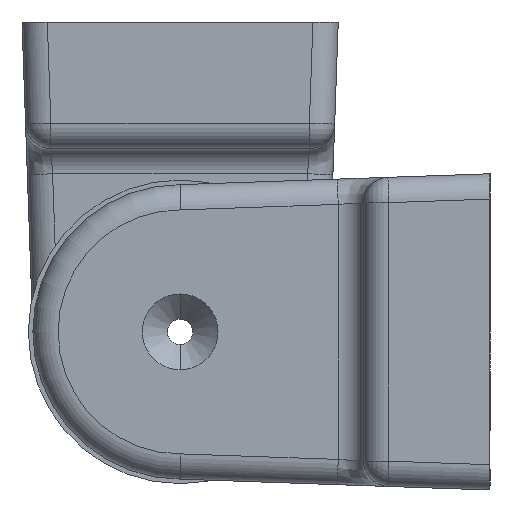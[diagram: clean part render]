
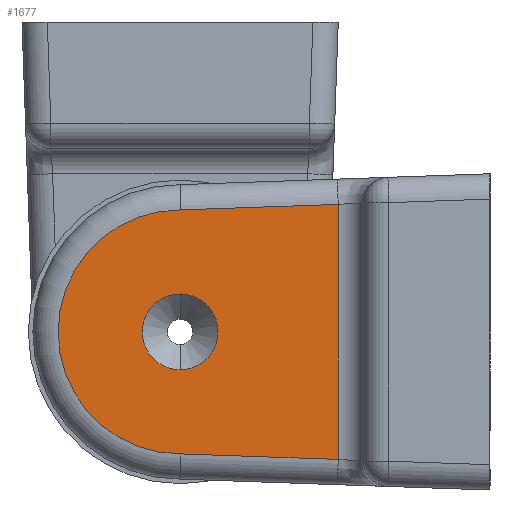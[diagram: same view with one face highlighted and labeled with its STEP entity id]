
A CAD part, left-side view. The second image highlights one B-rep face of the part: STEP entity #1677.
In plain terms, the highlighted planar face has unit normal (-1, 0, 0).
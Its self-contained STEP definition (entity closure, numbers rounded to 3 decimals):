
#34 = EDGE_CURVE ( 'NONE', #678, #637, #1599, .T. ) ;
#35 = DIRECTION ( 'NONE',  ( -1., 0., 0. ) ) ;
#45 = CARTESIAN_POINT ( 'NONE',  ( -27.5, -12.5, 10.08 ) ) ;
#105 = PLANE ( 'NONE',  #459 ) ;
#108 = ORIENTED_EDGE ( 'NONE', *, *, #1351, .T. ) ;
#127 = DIRECTION ( 'NONE',  ( 1., 0., 0. ) ) ;
#157 = CARTESIAN_POINT ( 'NONE',  ( -27.5, -14.582, -10.152 ) ) ;
#184 = DIRECTION ( 'NONE',  ( -1., 0., 0. ) ) ;
#255 = AXIS2_PLACEMENT_3D ( 'NONE', #579, #1087, #1262 ) ;
#287 = CARTESIAN_POINT ( 'NONE',  ( -27.5, -0.033, 9.644 ) ) ;
#315 = CARTESIAN_POINT ( 'NONE',  ( -27.5, 0., -9.644 ) ) ;
#375 = VECTOR ( 'NONE', #575, 1000. ) ;
#390 = EDGE_CURVE ( 'NONE', #1543, #1724, #1746, .T. ) ;
#400 = DIRECTION ( 'NONE',  ( 0., 0., -1. ) ) ;
#407 = LINE ( 'NONE', #1081, #475 ) ;
#437 = ORIENTED_EDGE ( 'NONE', *, *, #1256, .T. ) ;
#439 = CARTESIAN_POINT ( 'NONE',  ( -27.5, 0., 3. ) ) ;
#459 = AXIS2_PLACEMENT_3D ( 'NONE', #1483, #127, #2140 ) ;
#475 = VECTOR ( 'NONE', #1591, 1000. ) ;
#486 = ORIENTED_EDGE ( 'NONE', *, *, #1527, .T. ) ;
#492 = EDGE_LOOP ( 'NONE', ( #486, #108, #437, #806, #1234, #2098 ) ) ;
#539 = AXIS2_PLACEMENT_3D ( 'NONE', #2027, #184, #1862 ) ;
#575 = DIRECTION ( 'NONE',  ( 0., 0.999, -0.035 ) ) ;
#579 = CARTESIAN_POINT ( 'NONE',  ( -27.5, 0., 0. ) ) ;
#601 = FACE_OUTER_BOUND ( 'NONE', #492, .T. ) ;
#637 = VERTEX_POINT ( 'NONE', #1457 ) ;
#662 = CARTESIAN_POINT ( 'NONE',  ( -27.5, 0., 0. ) ) ;
#678 = VERTEX_POINT ( 'NONE', #439 ) ;
#683 = VECTOR ( 'NONE', #820, 1000. ) ;
#686 = CIRCLE ( 'NONE', #1963, 9.644 ) ;
#718 = CARTESIAN_POINT ( 'NONE',  ( -27.5, -12.5, -10.08 ) ) ;
#806 = ORIENTED_EDGE ( 'NONE', *, *, #390, .T. ) ;
#807 = EDGE_CURVE ( 'NONE', #1724, #1093, #1321, .T. ) ;
#820 = DIRECTION ( 'NONE',  ( 0., -0.999, -0.035 ) ) ;
#840 = EDGE_CURVE ( 'NONE', #1093, #1303, #1522, .T. ) ;
#882 = CARTESIAN_POINT ( 'NONE',  ( -27.5, 0., 0. ) ) ;
#1081 = CARTESIAN_POINT ( 'NONE',  ( -27.5, -12.5, 12.151 ) ) ;
#1087 = DIRECTION ( 'NONE',  ( 1., 0., 0. ) ) ;
#1093 = VERTEX_POINT ( 'NONE', #1179 ) ;
#1179 = CARTESIAN_POINT ( 'NONE',  ( -27.5, -0.033, -9.644 ) ) ;
#1195 = DIRECTION ( 'NONE',  ( -1., 0., 0. ) ) ;
#1234 = ORIENTED_EDGE ( 'NONE', *, *, #807, .T. ) ;
#1256 = EDGE_CURVE ( 'NONE', #2173, #1543, #686, .T. ) ;
#1262 = DIRECTION ( 'NONE',  ( 0., 0., -1. ) ) ;
#1271 = VERTEX_POINT ( 'NONE', #45 ) ;
#1303 = VERTEX_POINT ( 'NONE', #718 ) ;
#1310 = CIRCLE ( 'NONE', #255, 3. ) ;
#1321 = CIRCLE ( 'NONE', #1853, 9.644 ) ;
#1340 = DIRECTION ( 'NONE',  ( 0., 0., -1. ) ) ;
#1351 = EDGE_CURVE ( 'NONE', #1271, #2173, #1622, .T. ) ;
#1394 = CARTESIAN_POINT ( 'NONE',  ( -27.5, 0., 9.644 ) ) ;
#1448 = FACE_BOUND ( 'NONE', #1681, .T. ) ;
#1457 = CARTESIAN_POINT ( 'NONE',  ( -27.5, 0., -3. ) ) ;
#1483 = CARTESIAN_POINT ( 'NONE',  ( -27.5, -14.5, -12.5 ) ) ;
#1496 = ORIENTED_EDGE ( 'NONE', *, *, #2102, .T. ) ;
#1522 = LINE ( 'NONE', #157, #683 ) ;
#1527 = EDGE_CURVE ( 'NONE', #1303, #1271, #407, .T. ) ;
#1528 = AXIS2_PLACEMENT_3D ( 'NONE', #662, #2048, #1340 ) ;
#1543 = VERTEX_POINT ( 'NONE', #1394 ) ;
#1591 = DIRECTION ( 'NONE',  ( 0., 0., 1. ) ) ;
#1599 = CIRCLE ( 'NONE', #1528, 3. ) ;
#1622 = LINE ( 'NONE', #1793, #375 ) ;
#1666 = ORIENTED_EDGE ( 'NONE', *, *, #34, .T. ) ;
#1671 = CARTESIAN_POINT ( 'NONE',  ( -27.5, 0., 0. ) ) ;
#1677 = ADVANCED_FACE ( 'NONE', ( #1448, #601 ), #105, .F. ) ;
#1681 = EDGE_LOOP ( 'NONE', ( #1666, #1496 ) ) ;
#1724 = VERTEX_POINT ( 'NONE', #315 ) ;
#1746 = CIRCLE ( 'NONE', #539, 9.644 ) ;
#1793 = CARTESIAN_POINT ( 'NONE',  ( -27.5, -13.71, 10.122 ) ) ;
#1853 = AXIS2_PLACEMENT_3D ( 'NONE', #1671, #1195, #2012 ) ;
#1862 = DIRECTION ( 'NONE',  ( 0., 0., -1. ) ) ;
#1963 = AXIS2_PLACEMENT_3D ( 'NONE', #882, #35, #400 ) ;
#2012 = DIRECTION ( 'NONE',  ( 0., 0., -1. ) ) ;
#2027 = CARTESIAN_POINT ( 'NONE',  ( -27.5, 0., 0. ) ) ;
#2048 = DIRECTION ( 'NONE',  ( 1., 0., 0. ) ) ;
#2098 = ORIENTED_EDGE ( 'NONE', *, *, #840, .T. ) ;
#2102 = EDGE_CURVE ( 'NONE', #637, #678, #1310, .T. ) ;
#2140 = DIRECTION ( 'NONE',  ( 0., 0., -1. ) ) ;
#2173 = VERTEX_POINT ( 'NONE', #287 ) ;
